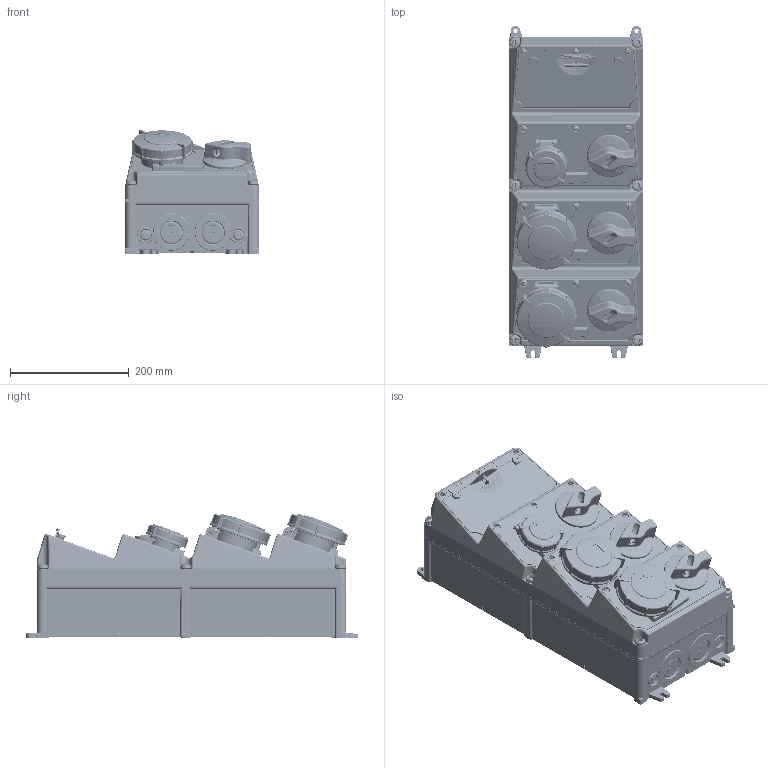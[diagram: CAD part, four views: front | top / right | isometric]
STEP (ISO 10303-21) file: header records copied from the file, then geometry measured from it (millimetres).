
FILE_DESCRIPTION((''),'2;1');
FILE_NAME('942347-1_ASM_1_ASM','2018-08-20T',('kremer'),('MENNEKES'),'PRO/ENGINEER BY PARAMETRIC TECHNOLOGY CORPORATION, 2015440','PRO/ENGINEER BY PARAMETRIC TECHNOLOGY CORPORATION, 2015440','');
FILE_SCHEMA(('AUTOMOTIVE_DESIGN { 1 0 10303 214 1 1 1 1 }'));
Products named in the file (7): 4-4_SW_O_GRAU_1; MP_FEN10_67_OBEN_GRAU_1; LS_4POL_4TE_1; LS_1POL_1TE_1; MP_DUO_32_5_67_ROT_GRAU_1; MP_DUO_16_3_67_BLAU_GRAU_1; 942347-1_ASM_1_ASM
Assembly tree (8 placements, depth 2):
  942347-1_ASM_1_ASM
    4-4_SW_O_GRAU_1
    MP_FEN10_67_OBEN_GRAU_1
    LS_4POL_4TE_1  x2
    LS_1POL_1TE_1
    MP_DUO_32_5_67_ROT_GRAU_1  x2
    MP_DUO_16_3_67_BLAU_GRAU_1
Bounding box: 225 x 558.2 x 209.09 mm (x, y, z)
Volume: 13897329.3 mm3; surface area: 1326737.3 mm2
Topology: 8 solids, 8 shells, 15895 faces, 44140 edges, 28350 vertices
Faces by surface type: plane 9089, cylinder 3461, bspline 1347, torus 1136, cone 466, sphere 269, extrusion 127
Entity records: 606666 total; most frequent: CARTESIAN_POINT 166267, ORIENTED_EDGE 68772, DIRECTION 59323, EDGE_CURVE 34386, PRESENTATION_STYLE_ASSIGNMENT 24720, VERTEX_POINT 22115, VECTOR 21273, LINE 21154
